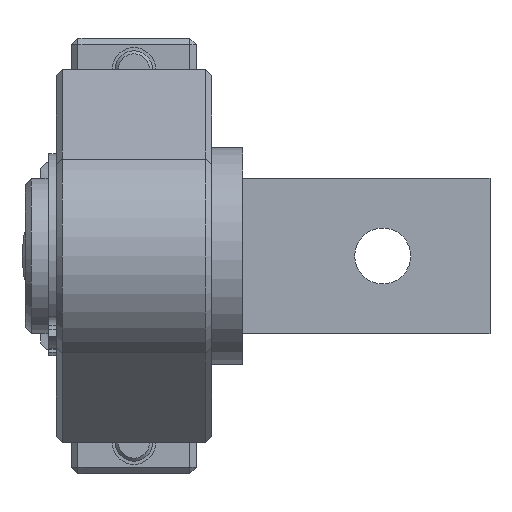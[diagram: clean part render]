
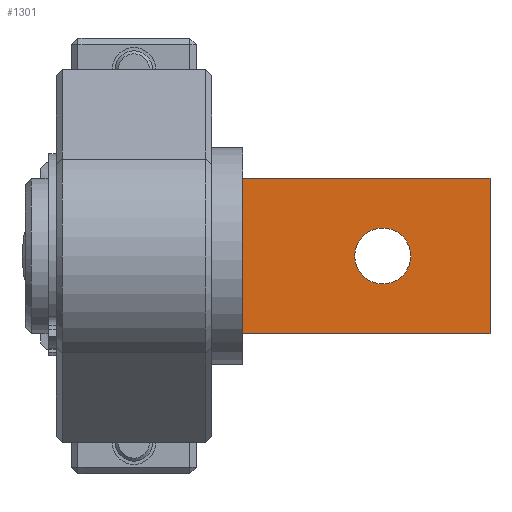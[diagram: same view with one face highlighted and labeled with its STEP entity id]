
A CAD part, left-side view. The second image highlights one B-rep face of the part: STEP entity #1301.
In plain terms, the highlighted planar face has unit normal (-1, 0, 0).
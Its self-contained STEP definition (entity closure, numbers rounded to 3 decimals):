
#1301 = ADVANCED_FACE( '', ( #2532, #2533 ), #2534, .F. );
#2532 = FACE_BOUND( '', #3954, .T. );
#2533 = FACE_OUTER_BOUND( '', #3955, .T. );
#2534 = PLANE( '', #3956 );
#3954 = EDGE_LOOP( '', ( #5914 ) );
#3955 = EDGE_LOOP( '', ( #5915, #5916, #5917, #5918 ) );
#3956 = AXIS2_PLACEMENT_3D( '', #5919, #5920, #5921 );
#5914 = ORIENTED_EDGE( '', *, *, #8193, .T. );
#5915 = ORIENTED_EDGE( '', *, *, #8285, .T. );
#5916 = ORIENTED_EDGE( '', *, *, #8286, .F. );
#5917 = ORIENTED_EDGE( '', *, *, #8153, .F. );
#5918 = ORIENTED_EDGE( '', *, *, #8197, .T. );
#5919 = CARTESIAN_POINT( '', ( -47.138, 42.961, 25. ) );
#5920 = DIRECTION( '', ( 1., 0., 0. ) );
#5921 = DIRECTION( '', ( 0., 0., -1. ) );
#8153 = EDGE_CURVE( '', #9521, #9523, #9524, .T. );
#8193 = EDGE_CURVE( '', #9579, #9579, #9580, .T. );
#8197 = EDGE_CURVE( '', #9521, #9585, #9587, .T. );
#8285 = EDGE_CURVE( '', #9585, #9714, #9715, .T. );
#8286 = EDGE_CURVE( '', #9523, #9714, #9716, .T. );
#9521 = VERTEX_POINT( '', #11935 );
#9523 = VERTEX_POINT( '', #11938 );
#9524 = LINE( '', #11939, #11940 );
#9579 = VERTEX_POINT( '', #12016 );
#9580 = CIRCLE( '', #12017, 4.5 );
#9585 = VERTEX_POINT( '', #12022 );
#9587 = LINE( '', #12025, #12026 );
#9714 = VERTEX_POINT( '', #12206 );
#9715 = LINE( '', #12207, #12208 );
#9716 = LINE( '', #12209, #12210 );
#11935 = CARTESIAN_POINT( '', ( -47.138, 42.961, 25. ) );
#11938 = CARTESIAN_POINT( '', ( -47.138, 3.211, 25. ) );
#11939 = CARTESIAN_POINT( '', ( -47.138, 42.961, 25. ) );
#11940 = VECTOR( '', #13757, 1000. );
#12016 = CARTESIAN_POINT( '', ( -47.138, 20.461, 8. ) );
#12017 = AXIS2_PLACEMENT_3D( '', #13797, #13798, #13799 );
#12022 = CARTESIAN_POINT( '', ( -47.138, 42.961, 0. ) );
#12025 = CARTESIAN_POINT( '', ( -47.138, 42.961, 25. ) );
#12026 = VECTOR( '', #13804, 1000. );
#12206 = CARTESIAN_POINT( '', ( -47.138, 3.211, 0. ) );
#12207 = CARTESIAN_POINT( '', ( -47.138, 42.961, 0. ) );
#12208 = VECTOR( '', #13905, 1000. );
#12209 = CARTESIAN_POINT( '', ( -47.138, 3.211, 25. ) );
#12210 = VECTOR( '', #13906, 1000. );
#13757 = DIRECTION( '', ( 0., -1., 0. ) );
#13797 = CARTESIAN_POINT( '', ( -47.138, 20.461, 12.5 ) );
#13798 = DIRECTION( '', ( 1., 0., 0. ) );
#13799 = DIRECTION( '', ( 0., 0., -1. ) );
#13804 = DIRECTION( '', ( 0., 0., -1. ) );
#13905 = DIRECTION( '', ( 0., -1., 0. ) );
#13906 = DIRECTION( '', ( 0., 0., -1. ) );
